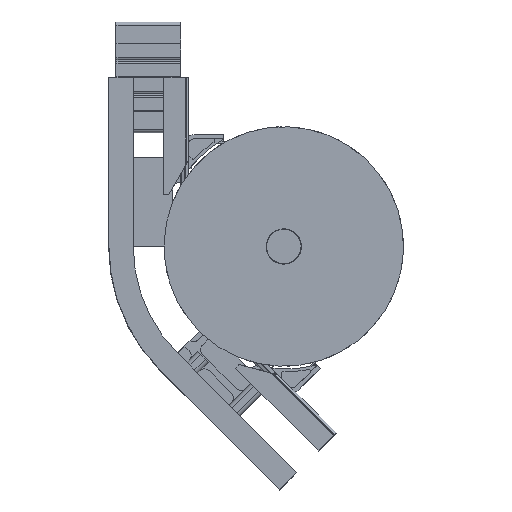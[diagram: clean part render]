
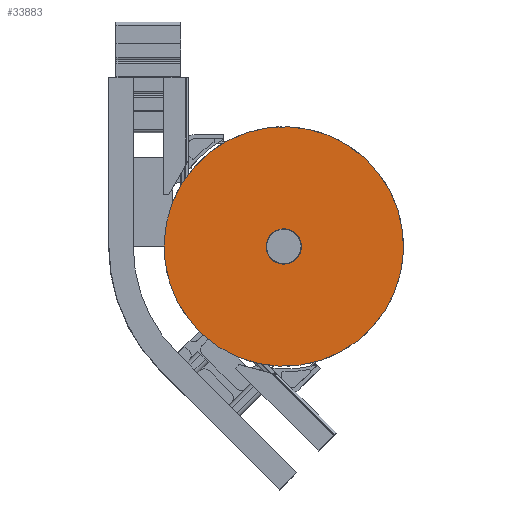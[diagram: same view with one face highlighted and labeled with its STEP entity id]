
A CAD part, front view. The second image highlights one B-rep face of the part: STEP entity #33883.
In plain terms, the highlighted planar face has unit normal (0, -1, 0).
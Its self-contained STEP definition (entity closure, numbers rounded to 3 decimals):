
#17159 = CIRCLE ( 'NONE', #30863, 26. ) ;
#17167 = CIRCLE ( 'NONE', #30867, 177. ) ;
#17172 = CIRCLE ( 'NONE', #30868, 26. ) ;
#17177 = CIRCLE ( 'NONE', #30869, 177. ) ;
#20961 = FACE_OUTER_BOUND ( 'NONE', #35141, .T. ) ;
#20962 = FACE_BOUND ( 'NONE', #35142, .T. ) ;
#25733 = PLANE ( 'NONE',  #30598 ) ;
#25735 = CARTESIAN_POINT ( 'NONE',  ( 180.745, -67.5, -232.529 ) ) ;
#25737 = DIRECTION ( 'NONE',  ( 0., -1., 0. ) ) ;
#25738 = DIRECTION ( 'NONE',  ( -0.741, 0., 0.672 ) ) ;
#26197 = CARTESIAN_POINT ( 'NONE',  ( 331.085, -67.5, -368.936 ) ) ;
#26258 = CARTESIAN_POINT ( 'NONE',  ( 180.745, -67.5, -232.529 ) ) ;
#26273 = CARTESIAN_POINT ( 'NONE',  ( 68.915, -67.5, -131.064 ) ) ;
#26419 = CARTESIAN_POINT ( 'NONE',  ( 219.255, -67.5, -267.471 ) ) ;
#28238 = ORIENTED_EDGE ( 'NONE', *, *, #36694, .T. ) ;
#28239 = ORIENTED_EDGE ( 'NONE', *, *, #36700, .T. ) ;
#28240 = ORIENTED_EDGE ( 'NONE', *, *, #36688, .F. ) ;
#28241 = ORIENTED_EDGE ( 'NONE', *, *, #36697, .F. ) ;
#30598 = AXIS2_PLACEMENT_3D ( 'NONE', #25735, #25737, #25738 ) ;
#30863 = AXIS2_PLACEMENT_3D ( 'NONE', #39338, #39339, #39340 ) ;
#30867 = AXIS2_PLACEMENT_3D ( 'NONE', #39354, #39355, #39356 ) ;
#30868 = AXIS2_PLACEMENT_3D ( 'NONE', #39361, #39362, #39363 ) ;
#30869 = AXIS2_PLACEMENT_3D ( 'NONE', #39368, #39369, #39370 ) ;
#33883 = ADVANCED_FACE ( 'NONE', ( #20961, #20962 ), #25733, .T. ) ;
#35141 = EDGE_LOOP ( 'NONE', ( #28238, #28239 ) ) ;
#35142 = EDGE_LOOP ( 'NONE', ( #28240, #28241 ) ) ;
#35369 = VERTEX_POINT ( 'NONE', #26197 ) ;
#35407 = VERTEX_POINT ( 'NONE', #26258 ) ;
#35415 = VERTEX_POINT ( 'NONE', #26273 ) ;
#35540 = VERTEX_POINT ( 'NONE', #26419 ) ;
#36688 = EDGE_CURVE ( 'NONE', #35407, #35540, #17159, .T. ) ;
#36694 = EDGE_CURVE ( 'NONE', #35415, #35369, #17167, .T. ) ;
#36697 = EDGE_CURVE ( 'NONE', #35540, #35407, #17172, .T. ) ;
#36700 = EDGE_CURVE ( 'NONE', #35369, #35415, #17177, .T. ) ;
#39338 = CARTESIAN_POINT ( 'NONE',  ( 200., -67.5, -250. ) ) ;
#39339 = DIRECTION ( 'NONE',  ( 0., -1., 0. ) ) ;
#39340 = DIRECTION ( 'NONE',  ( -0.741, 0., 0.672 ) ) ;
#39354 = CARTESIAN_POINT ( 'NONE',  ( 200., -67.5, -250. ) ) ;
#39355 = DIRECTION ( 'NONE',  ( 0., -1., 0. ) ) ;
#39356 = DIRECTION ( 'NONE',  ( -0.741, 0., 0.672 ) ) ;
#39361 = CARTESIAN_POINT ( 'NONE',  ( 200., -67.5, -250. ) ) ;
#39362 = DIRECTION ( 'NONE',  ( 0., -1., 0. ) ) ;
#39363 = DIRECTION ( 'NONE',  ( -0.741, 0., 0.672 ) ) ;
#39368 = CARTESIAN_POINT ( 'NONE',  ( 200., -67.5, -250. ) ) ;
#39369 = DIRECTION ( 'NONE',  ( 0., -1., 0. ) ) ;
#39370 = DIRECTION ( 'NONE',  ( -0.741, 0., 0.672 ) ) ;
